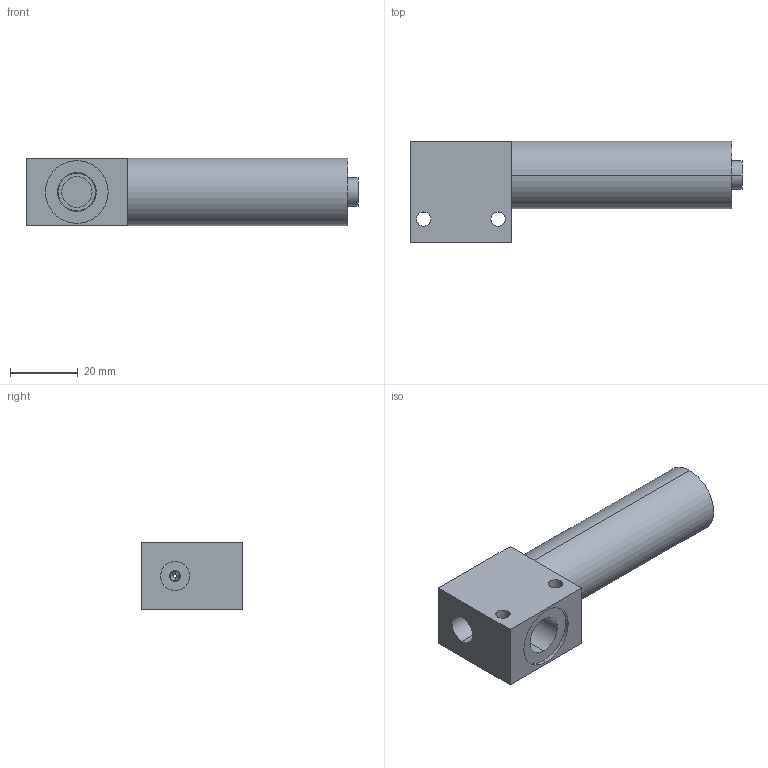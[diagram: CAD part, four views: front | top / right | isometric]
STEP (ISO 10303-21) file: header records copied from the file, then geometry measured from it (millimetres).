
FILE_DESCRIPTION (( 'STEP AP214' ), '1' );
FILE_NAME ('2EJMI8010H00.STEP', '2016-09-14T08:47:11', ( '' ), ( '' ), 'SwSTEP 2.0', 'SolidWorks 2010', '' );
FILE_SCHEMA (( 'AUTOMOTIVE_DESIGN' ));
Length unit declared in the file: millimetre
Products named in the file (10): S0861F02_S095110; S0717E01_Montage; 100357; S0716F03_9BS105005; S095102_2EJMV8000COR00; 100353; FILTRES TAMIS_F70.60234.200; 2EJMI8010H00; S0861F01_S095104; Vis sans tete 6 pans creux a bout cuvette_Vis sans tête 6 pans creux à bout cuvette M 2,5 Lg:5
Assembly tree (9 placements, depth 3):
  2EJMI8010H00
    FILTRES TAMIS_F70.60234.200
    S095102_2EJMV8000COR00
    Vis sans tete 6 pans creux a bout cuvette_Vis sans tête 6 pans creux à bout cuvette M 2,5 Lg:5
    S0861F02_S095110
    S0861F01_S095104
    S0717E01_Montage
      S0716F03_9BS105005
      100353
      100357
Bounding box: 98 x 30 x 20 mm (x, y, z)
Volume: 26576.9 mm3; surface area: 17496.5 mm2
Topology: 9 solids, 9 shells, 182 faces, 396 edges, 238 vertices
Faces by surface type: cylinder 72, cone 54, plane 44, torus 12
Entity records: 5849 total; most frequent: CARTESIAN_POINT 996, DIRECTION 958, ORIENTED_EDGE 780, AXIS2_PLACEMENT_3D 406, EDGE_CURVE 390, VERTEX_POINT 238, EDGE_LOOP 216, CIRCLE 211
